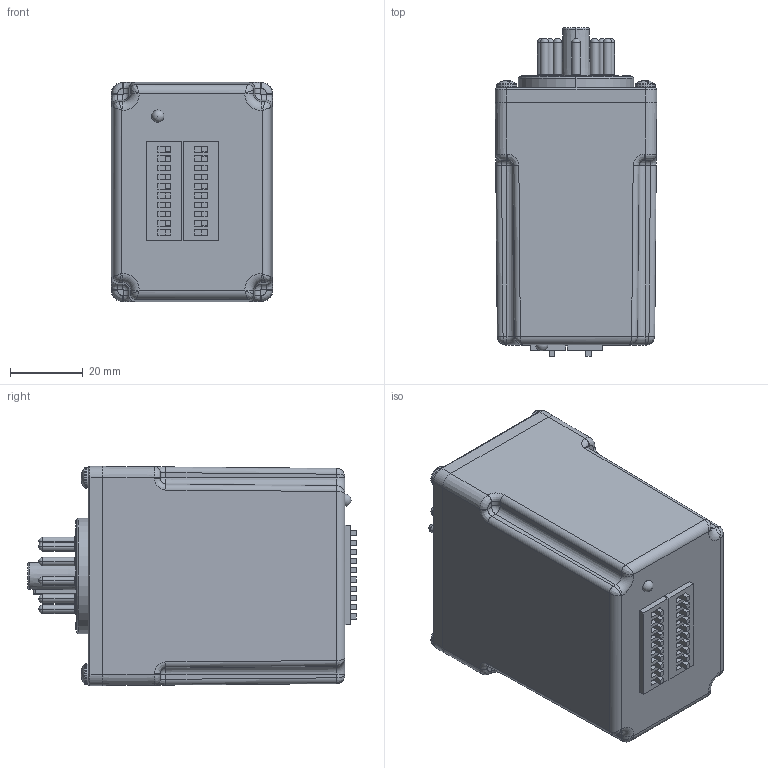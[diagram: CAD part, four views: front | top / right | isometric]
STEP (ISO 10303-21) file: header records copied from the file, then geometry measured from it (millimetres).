
FILE_DESCRIPTION(('FreeCAD Model'),'2;1');
FILE_NAME('Open CASCADE Shape Model','2023-06-06T13:40:13',(''),(''), 'Open CASCADE STEP processor 7.6','FreeCAD','Unknown');
FILE_SCHEMA(('AUTOMOTIVE_DESIGN { 1 0 10303 214 1 1 1 1 }'));
Products named in the file (1): Compound001
Bounding box: 44.45 x 90.37 x 60.33 mm (x, y, z)
Surface area: 46323 mm2 (no closed solid volume)
Topology: 0 solids, 44 shells, 2156 faces, 5251 edges, 3270 vertices
Faces by surface type: plane 817, cylinder 528, bspline 326, torus 282, revolution 140, cone 60, sphere 3
Entity records: 199131 total; most frequent: CARTESIAN_POINT 98539, DIRECTION 16915, ORIENTED_EDGE 10464, PCURVE 10464, DEFINITIONAL_REPRESENTATION 10464, LINE 10272, VECTOR 10272, EDGE_CURVE 5240
